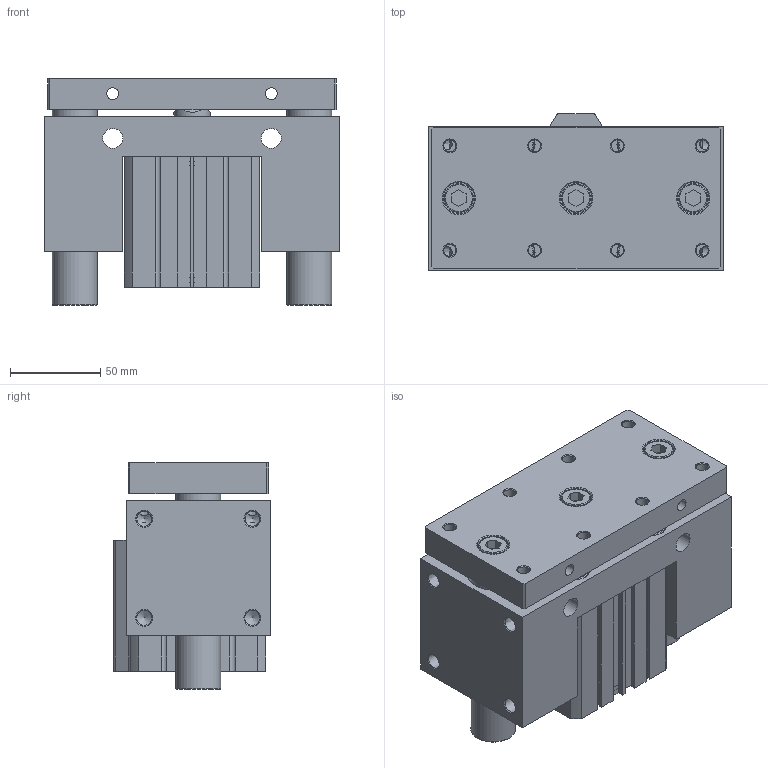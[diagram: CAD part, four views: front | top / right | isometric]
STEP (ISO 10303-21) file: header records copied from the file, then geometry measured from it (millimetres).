
FILE_DESCRIPTION((''),'2;1');
FILE_NAME('I:\3D電子目錄\氣缸\JCB\JCB\JCB63-S\JCB63x30-S.stp','2007-09-01T15:30:15',('Administrator'),(''),'Autodesk Inventor 11','Autodesk Inventor 11','');
FILE_SCHEMA(('AUTOMOTIVE_DESIGN { 1 0 10303 214 1 1 1 1 }'));
Length unit declared in the file: millimetre
Products named in the file (1): JCB63
Bounding box: 164 x 87 x 125.5 mm (x, y, z)
Volume: 1220177.9 mm3; surface area: 195508.4 mm2
Topology: 3 solids, 5 shells, 343 faces, 829 edges, 538 vertices
Faces by surface type: plane 186, cylinder 62, cone 47, bspline 40, torus 8
Full cylindrical faces by diameter (mm): 3 x2, 6.8 x4, 8.376 x4, 11 x8, 13 x4, 14 x4, 16 x3, 17.5 x3, 20 x1, 21 x1, 25 x2, 28 x2, 40 x1, 47 x1, 65 x4, 68 x2
Entity records: 10008 total; most frequent: CARTESIAN_POINT 2670, DIRECTION 1474, ORIENTED_EDGE 1320, EDGE_CURVE 660, EDGE_LOOP 554, AXIS2_PLACEMENT_3D 532, VERTEX_POINT 498, VECTOR 410
